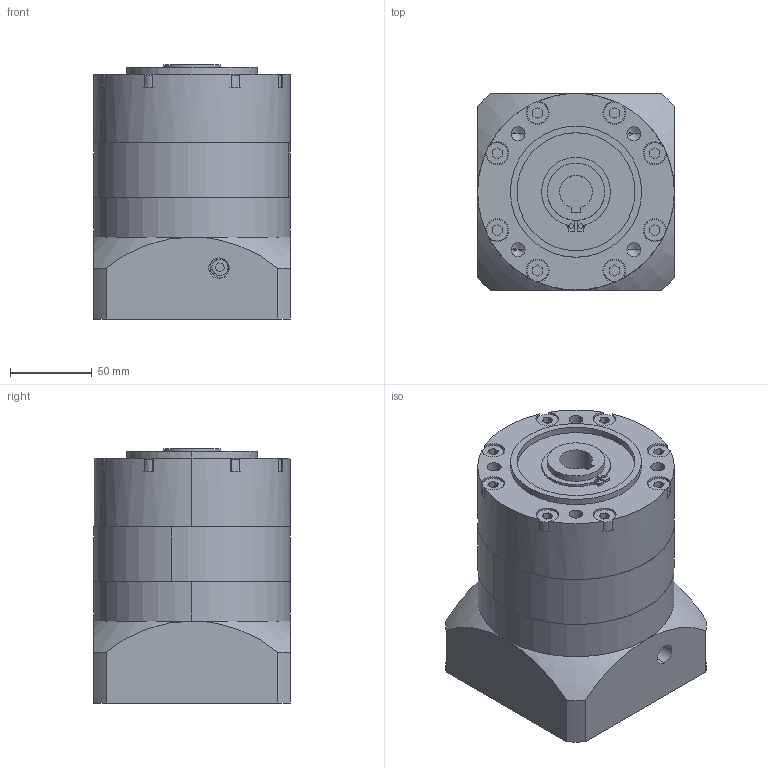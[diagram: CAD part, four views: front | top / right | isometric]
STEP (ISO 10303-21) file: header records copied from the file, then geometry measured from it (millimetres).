
FILE_DESCRIPTION (( 'STEP AP203' ), '1' );
FILE_NAME ('PRNF120-L1-5-110-19x40.STEP', '2020-12-07T11:39:47', ( 'USER-' ), ( 'MS' ), 'SwSTEP 2.0', 'SolidWorks 2018', '' );
FILE_SCHEMA (( 'CONFIG_CONTROL_DESIGN' ));
Length unit declared in the file: millimetre
Products named in the file (7): PRL120 ___w__^PRNF120-L1(2)_PRNF120-L1; __________ M6x20^PRNF120-L1(2)_PRNF120-L1; PRF120 ______-____-____^PRNF120-L1(2)_PRNF120-L1; PRF120 _________________^PRNF120-L1(2)_PRNF120-L1; PRF120 ___w__^PRNF120-L1(2)_PRNF120-L1; ____-6007 40x68x15^PRNF120-L1(2)_PRNF120-L1; PRNF120-L1-5-110-19x40
Assembly tree (6 placements, depth 2):
  PRNF120-L1-5-110-19x40
    PRL120 ___w__^PRNF120-L1(2)_PRNF120-L1
    __________ M6x20^PRNF120-L1(2)_PRNF120-L1
    PRF120 ______-____-____^PRNF120-L1(2)_PRNF120-L1
    PRF120 _________________^PRNF120-L1(2)_PRNF120-L1
    PRF120 ___w__^PRNF120-L1(2)_PRNF120-L1
    ____-6007 40x68x15^PRNF120-L1(2)_PRNF120-L1
Bounding box: 120 x 120 x 155 mm (x, y, z)
Volume: 1630603.8 mm3; surface area: 221863.9 mm2
Topology: 6 solids, 14 shells, 580 faces, 1626 edges, 1022 vertices
Faces by surface type: plane 186, cylinder 180, sphere 144, torus 52, cone 18
Entity records: 24233 total; most frequent: CARTESIAN_POINT 9112, ORIENTED_EDGE 3076, DIRECTION 3014, EDGE_CURVE 1538, AXIS2_PLACEMENT_3D 1286, VERTEX_POINT 998, CIRCLE 697, EDGE_LOOP 660
